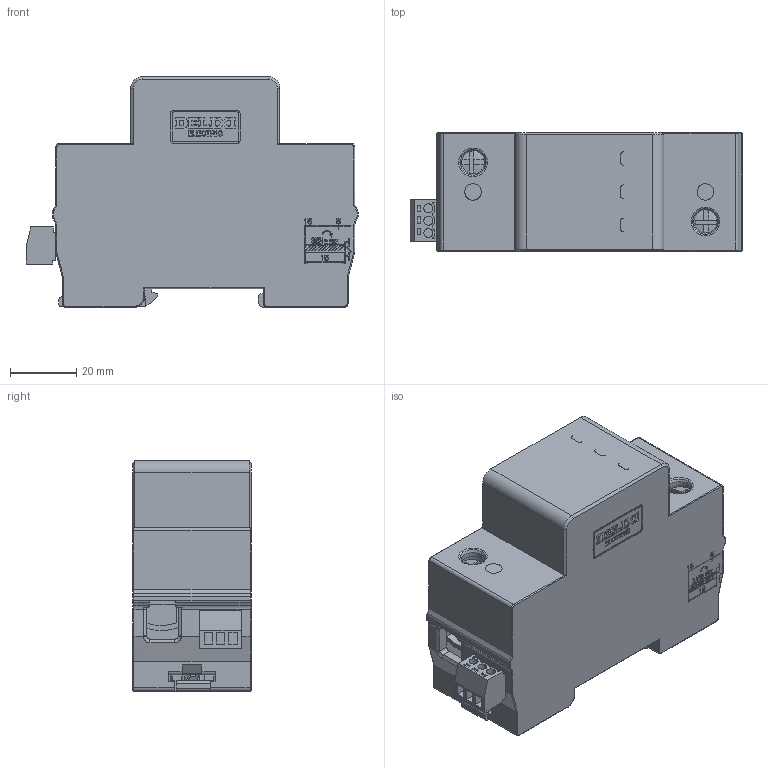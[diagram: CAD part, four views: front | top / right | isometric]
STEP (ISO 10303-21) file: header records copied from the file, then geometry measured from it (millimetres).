
FILE_DESCRIPTION((''),'2;1');
FILE_NAME('2207002700_SW0001','2023-03-16T',('linxiao.guan'),(''),'PRO/ENGINEER BY PARAMETRIC TECHNOLOGY CORPORATION, 2015440','PRO/ENGINEER BY PARAMETRIC TECHNOLOGY CORPORATION, 2015440','');
FILE_SCHEMA(('CONFIG_CONTROL_DESIGN'));
Products named in the file (1): 2207002700_SW0001
Bounding box: 100 x 35.6 x 69.4 mm (x, y, z)
Volume: 59151.4 mm3; surface area: 61905.1 mm2
Topology: 1 solids, 1 shells, 2737 faces, 7753 edges, 5102 vertices
Faces by surface type: plane 2323, cylinder 305, torus 38, cone 37, bspline 26, sphere 8
Entity records: 98579 total; most frequent: CARTESIAN_POINT 27063, ORIENTED_EDGE 15506, DIRECTION 13734, EDGE_CURVE 7753, VECTOR 6822, LINE 6822, VERTEX_POINT 5102, AXIS2_PLACEMENT_3D 3456
